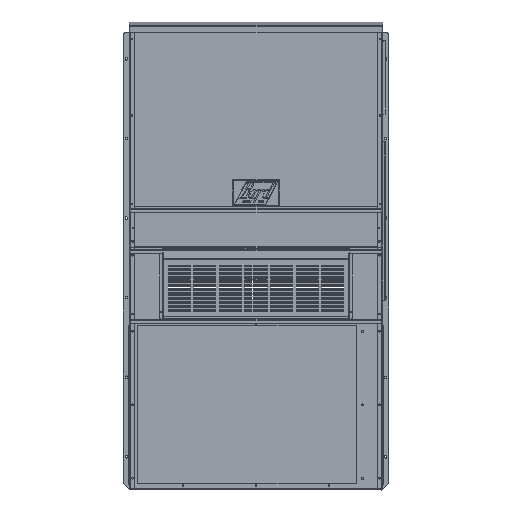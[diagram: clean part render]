
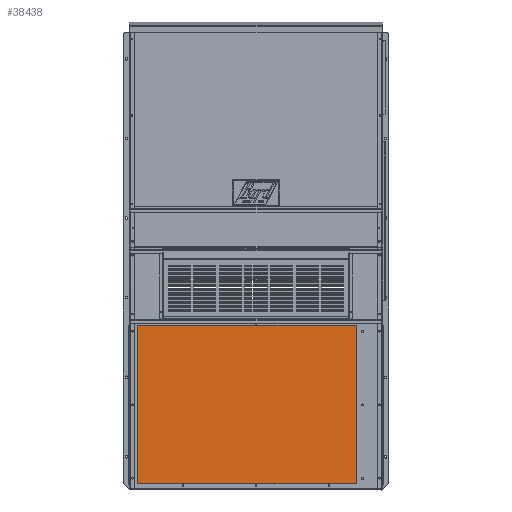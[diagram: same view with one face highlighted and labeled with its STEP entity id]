
A CAD part, top view. The second image highlights one B-rep face of the part: STEP entity #38438.
In plain terms, the highlighted planar face has unit normal (0, 0, 1).
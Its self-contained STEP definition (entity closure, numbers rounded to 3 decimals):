
#722 = VERTEX_POINT ( 'NONE', #8514 ) ;
#1060 = PLANE ( 'NONE',  #15830 ) ;
#2878 = DIRECTION ( 'NONE',  ( 0., 1., 0. ) ) ;
#8514 = CARTESIAN_POINT ( 'NONE',  ( -36.784, 0.149, 0.149 ) ) ;
#10791 = DIRECTION ( 'NONE',  ( 0., 0., -1. ) ) ;
#15830 = AXIS2_PLACEMENT_3D ( 'NONE', #88263, #10791, #78888 ) ;
#19906 = DIRECTION ( 'NONE',  ( 1., 0., 0. ) ) ;
#22266 = EDGE_CURVE ( 'NONE', #123091, #722, #61607, .T. ) ;
#22641 = DIRECTION ( 'NONE',  ( -1., 0., 0. ) ) ;
#36292 = EDGE_LOOP ( 'NONE', ( #89793, #93488, #68048, #107614 ) ) ;
#38438 = ADVANCED_FACE ( 'NONE', ( #79589 ), #1060, .F. ) ;
#39598 = LINE ( 'NONE', #88010, #91247 ) ;
#42050 = LINE ( 'NONE', #50650, #67848 ) ;
#46606 = EDGE_CURVE ( 'NONE', #722, #84441, #42050, .T. ) ;
#50650 = CARTESIAN_POINT ( 'NONE',  ( -36.784, 24.047, 0.149 ) ) ;
#61607 = LINE ( 'NONE', #90727, #110269 ) ;
#63162 = EDGE_CURVE ( 'NONE', #84441, #101815, #39598, .T. ) ;
#67848 = VECTOR ( 'NONE', #2878, 39.37 ) ;
#68048 = ORIENTED_EDGE ( 'NONE', *, *, #114732, .F. ) ;
#71996 = CARTESIAN_POINT ( 'NONE',  ( -36.784, 24.047, 0.149 ) ) ;
#78888 = DIRECTION ( 'NONE',  ( 0., 1., 0. ) ) ;
#79589 = FACE_OUTER_BOUND ( 'NONE', #36292, .T. ) ;
#83775 = CARTESIAN_POINT ( 'NONE',  ( -3.858, 24.047, 0.149 ) ) ;
#84441 = VERTEX_POINT ( 'NONE', #71996 ) ;
#87416 = CARTESIAN_POINT ( 'NONE',  ( -3.858, 24.047, 0.149 ) ) ;
#88010 = CARTESIAN_POINT ( 'NONE',  ( -36.784, 24.047, 0.149 ) ) ;
#88263 = CARTESIAN_POINT ( 'NONE',  ( -3.858, 24.047, 0.149 ) ) ;
#89793 = ORIENTED_EDGE ( 'NONE', *, *, #46606, .F. ) ;
#90727 = CARTESIAN_POINT ( 'NONE',  ( -36.784, 0.149, 0.149 ) ) ;
#91247 = VECTOR ( 'NONE', #19906, 39.37 ) ;
#93472 = DIRECTION ( 'NONE',  ( 0., -1., 0. ) ) ;
#93488 = ORIENTED_EDGE ( 'NONE', *, *, #22266, .F. ) ;
#95926 = VECTOR ( 'NONE', #93472, 39.37 ) ;
#99017 = LINE ( 'NONE', #83775, #95926 ) ;
#101815 = VERTEX_POINT ( 'NONE', #87416 ) ;
#107614 = ORIENTED_EDGE ( 'NONE', *, *, #63162, .F. ) ;
#110269 = VECTOR ( 'NONE', #22641, 39.37 ) ;
#114732 = EDGE_CURVE ( 'NONE', #101815, #123091, #99017, .T. ) ;
#118388 = CARTESIAN_POINT ( 'NONE',  ( -3.858, 0.149, 0.149 ) ) ;
#123091 = VERTEX_POINT ( 'NONE', #118388 ) ;
